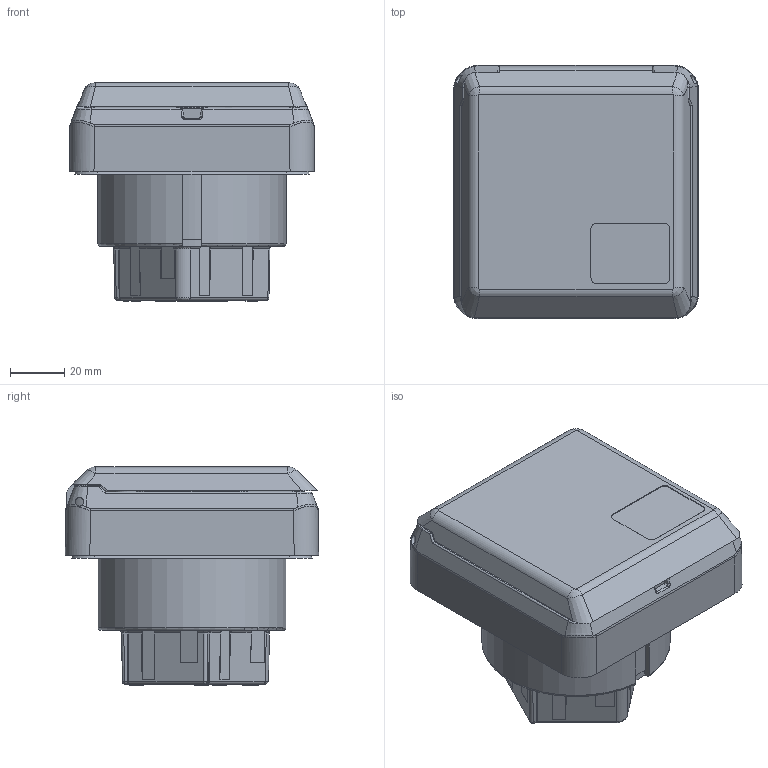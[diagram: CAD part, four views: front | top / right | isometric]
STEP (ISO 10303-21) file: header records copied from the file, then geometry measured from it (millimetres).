
FILE_DESCRIPTION((''),'2;1');
FILE_NAME('1117950_ASM_SW0001','2018-08-21T',('Gisse'),('MENNEKES'),'PRO/ENGINEER BY PARAMETRIC TECHNOLOGY CORPORATION, 2015440','PRO/ENGINEER BY PARAMETRIC TECHNOLOGY CORPORATION, 2015440','');
FILE_SCHEMA(('AUTOMOTIVE_DESIGN { 1 0 10303 214 1 1 1 1 }'));
Length unit declared in the file: millimetre
Products named in the file (1): 1117950_ASM_SW0001
Bounding box: 90 x 93 x 80.1 mm (x, y, z)
Volume: 392308.7 mm3; surface area: 42026.7 mm2
Topology: 1 solids, 1 shells, 513 faces, 1366 edges, 877 vertices
Faces by surface type: plane 242, cylinder 120, extrusion 88, bspline 36, cone 14, sphere 10, torus 3
Entity records: 24177 total; most frequent: CARTESIAN_POINT 5414, ORIENTED_EDGE 2732, DIRECTION 2149, EDGE_CURVE 1366, FILL_AREA_STYLE_COLOUR 977, FILL_AREA_STYLE 977, SURFACE_STYLE_FILL_AREA 977, SURFACE_SIDE_STYLE 977
